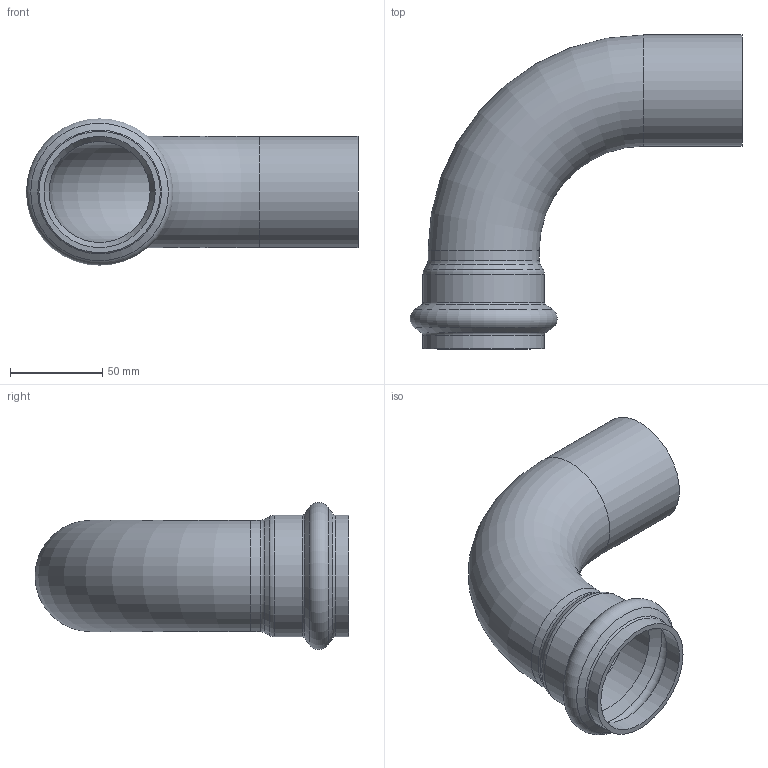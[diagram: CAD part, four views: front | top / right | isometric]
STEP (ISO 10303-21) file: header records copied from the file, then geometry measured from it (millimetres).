
FILE_DESCRIPTION(/* description */ ('VIC 90 DEG ST ELBOW STYLE P562 (P X T)','CAx-IF Rec.Pracs.---Representation and Presentation of Product Manufacturing Information (PMI)---4.0---2014-10-13'),/* implementation_level */ '2;1');
FILE_NAME(/* name */ 'C:\Users\kkamble\AppData\Roaming\Autodesk\ApplicationPlugins\Back Up\Victaulic_SS-Vic-Press-TP 316_Elbow Street 90 Deg_Style P562 (VPxPE)\Victaulic_SS-Vic-Press-TP 316_Elbow Street 90 Deg_Style P562 (VPxPE)_2 (50).stp',/* time_stamp */ '2020-08-14T14:07:26+06:00',/* author */ ('AAyare'),/* organization */ ('Victaulic'),/* preprocessor_version */ 'ST-DEVELOPER v17.2',/* originating_system */ 'Autodesk Inventor 2019',/* authorisation */ '');
FILE_SCHEMA (('AP242_MANAGED_MODEL_BASED_3D_ENGINEERING_MIM_LF { 1 0 10303 442 1 1 4 }'));
Length unit declared in the file: inch
Products named in the file (1): P562-02.0
Bounding box: 180.15 x 170.37 x 79.89 mm (x, y, z)
Volume: 129380.2 mm3; surface area: 94416.7 mm2
Topology: 1 solids, 1 shells, 24 faces, 82 edges, 60 vertices
Faces by surface type: torus 8, cylinder 8, cone 6, plane 2
Full cylindrical faces by diameter (mm): 54.788 x2, 60.325 x4, 65.862 x2
Entity records: 1098 total; most frequent: DIRECTION 226, CARTESIAN_POINT 184, ORIENTED_EDGE 164, AXIS2_PLACEMENT_3D 106, EDGE_CURVE 82, CIRCLE 68, VERTEX_POINT 60, EDGE_LOOP 26
